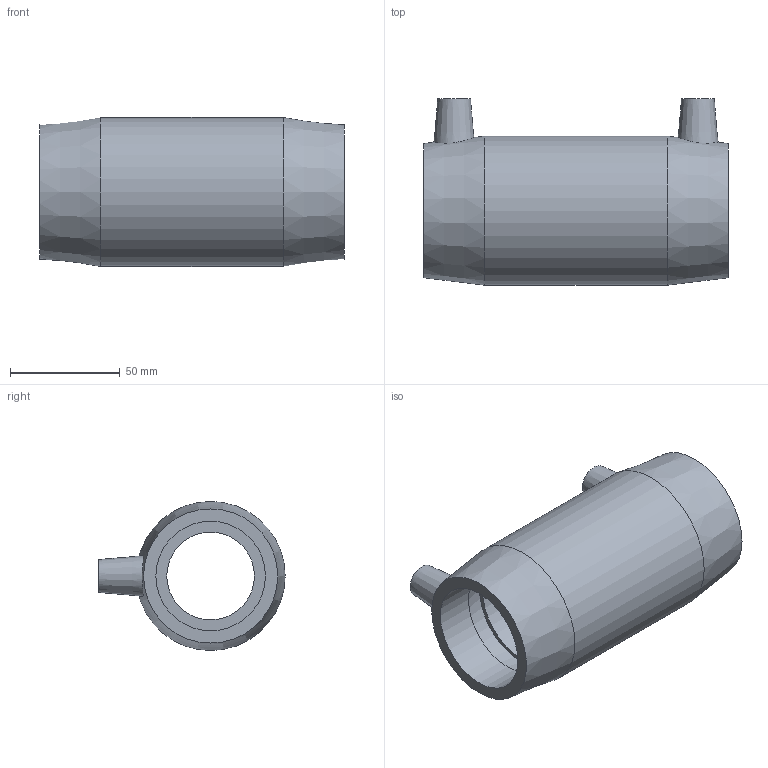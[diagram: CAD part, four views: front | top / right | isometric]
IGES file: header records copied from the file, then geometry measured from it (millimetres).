
Global section: file name: 4901L4050.ipt; native system: Autodesk Inventor 2015; preprocessor: unknown; author: KIM; date: 20171106.093602; units: millimetre
Bounding box: 139 x 85 x 68 mm (x, y, z)
Volume: 218077.2 mm3; surface area: 58108.6 mm2
Topology: 1 solids, 1 shells, 28 faces, 64 edges, 46 vertices
Faces by surface type: plane 12, revolution 9, cone 4, cylinder 3
Full cylindrical faces by diameter (mm): 4 x2, 68 x1
